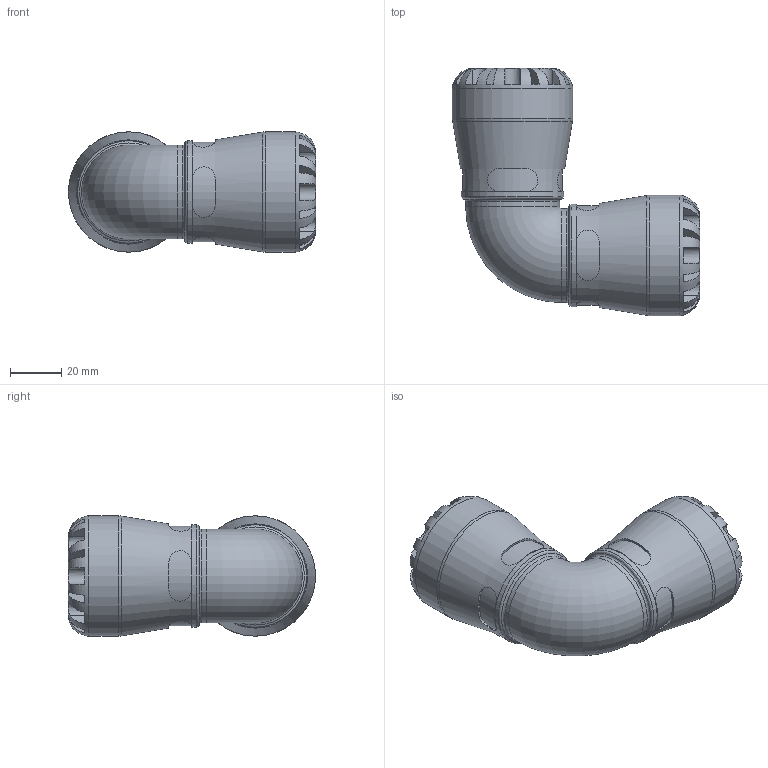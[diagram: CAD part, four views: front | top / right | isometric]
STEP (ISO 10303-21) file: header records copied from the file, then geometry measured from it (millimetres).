
FILE_DESCRIPTION(/* description */ ('PLASSON 90° ELBOW 25X25 SERIES 1'),/* implementation_level */ '2;1');
FILE_NAME(/* name */ 'C:\Dropbox\KIMPROJECTS-Inventor\99-16-3568-Processing\1005\100500025_190400025.ipt.stp',/* time_stamp */ '2017-01-22T11:44:17+02:00',/* author */ ('KIM'),/* organization */ (''),/* preprocessor_version */ 'ST-DEVELOPER v15.6',/* originating_system */ 'Autodesk Inventor 2015',/* authorisation */ '');
FILE_SCHEMA (('AUTOMOTIVE_DESIGN { 1 0 10303 214 3 1 1 }'));
Length unit declared in the file: millimetre
Products named in the file (1): 100500025_190400025
Bounding box: 96.5 x 96.5 x 47 mm (x, y, z)
Volume: 123577.9 mm3; surface area: 33060.5 mm2
Topology: 1 solids, 1 shells, 196 faces, 497 edges, 311 vertices
Faces by surface type: plane 116, cylinder 66, torus 12, cone 2
Full cylindrical faces by diameter (mm): 20.833 x2, 25 x2, 36.66 x2, 39.95 x2, 47 x2
Entity records: 7472 total; most frequent: CARTESIAN_POINT 2841, ORIENTED_EDGE 916, DIRECTION 894, EDGE_CURVE 458, AXIS2_PLACEMENT_3D 367, VERTEX_POINT 298, EDGE_LOOP 232, STYLED_ITEM 197
